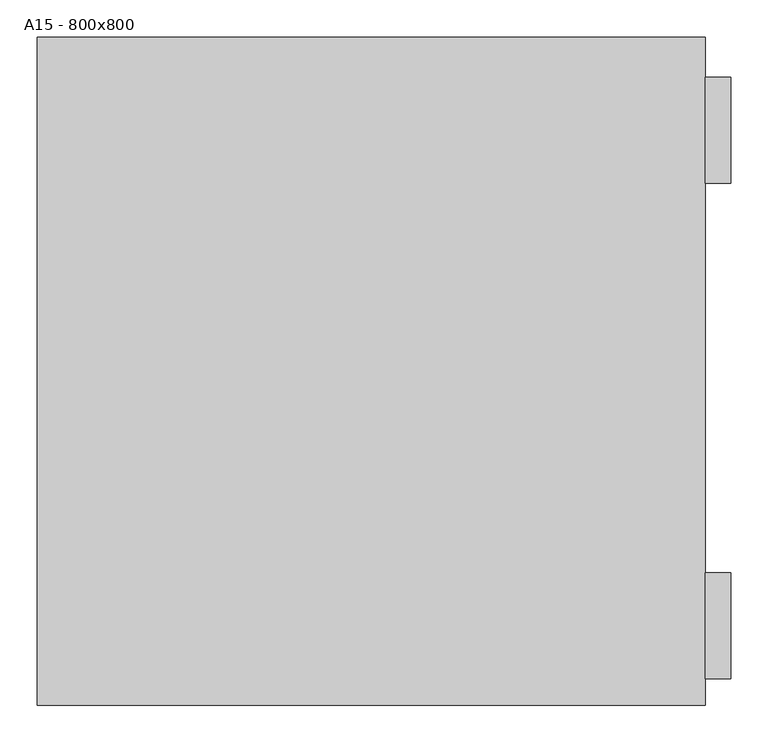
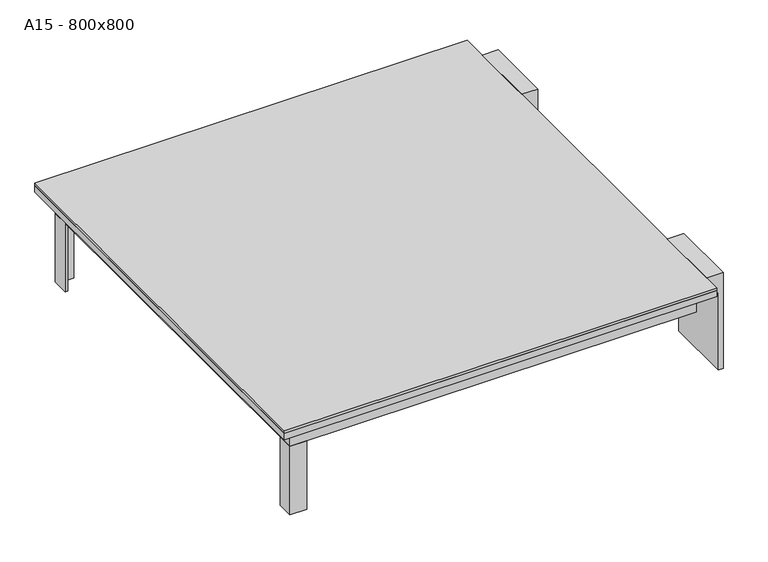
"""IFC4 building model written with IfcOpenShell, lengths in millimetres: proxy geometry, ME_ST_WPB_Access Cover SOLID ASSIST SS_ACO : A15 - 800x800."""

from ifc_helpers import new_model, si_unit, frame, origin, place, context, project, spatial, polyline, outline, extrude, faceted_brep, source, transform, mapped, element, save


def a15_800x800_d2df4928(model_context):
    return source(origin(), model_context, "Body", "SolidModel", [
        extrude(outline(polyline([(0.0, 482.0), (0.0, 448.0), (-40.0, 448.0), (-40.0, 472.0), (-210.175026, 472.0), (-210.175026, 482.0), (0.0, 482.0)])), frame((0.0, -412.0, 0.0), z_axis=(0.0, 1.0, 0.0), x_axis=(0.0, 0.0, 1.0)), (0.0, 0.0, 1.0), 142.0),
        extrude(outline(polyline([(0.0, 482.0), (0.0, 448.0), (-40.0, 448.0), (-40.0, 472.0), (-210.175026, 472.0), (-210.175026, 482.0), (0.0, 482.0)])), frame((0.0, 252.5, 0.0), z_axis=(0.0, 1.0, 0.0), x_axis=(0.0, 0.0, 1.0)), (0.0, 0.0, 1.0), 142.0),
        extrude(outline(polyline([(-421.0, 421.0), (-386.0, 421.0), (-386.0, 416.0), (-416.0, 416.0), (-416.0, 386.0), (-421.0, 386.0), (-421.0, 421.0)])), frame((0.0, 0.0, -210.0), z_axis=(0.0, 0.0, 1.0), x_axis=(1.0, 0.0, 0.0)), (0.0, 0.0, 1.0), 150.5),
        extrude(outline(polyline([(-421.0, -421.0), (-421.0, -386.0), (-416.0, -386.0), (-416.0, -416.0), (-386.0, -416.0), (-386.0, -421.0), (-421.0, -421.0)])), frame((0.0, 0.0, -210.0), z_axis=(0.0, 0.0, 1.0), x_axis=(1.0, 0.0, 0.0)), (0.0, 0.0, 1.0), 150.5),
        extrude(outline(polyline([(448.0, 448.0), (448.0, -448.0), (-448.0, -448.0), (-448.0, 448.0), (448.0, 448.0)])), frame((0.0, 0.0, -5.0), z_axis=(0.0, 0.0, 1.0), x_axis=(1.0, 0.0, 0.0)), (0.0, 0.0, 1.0), 5.0),
        faceted_brep([(448.0, 448.0, -19.0), (448.0, 448.0, -5.0), (448.0, -448.0, -5.0), (448.0, -448.0, -19.0), (400.0, 400.0, -57.5), (400.0, 400.0, -59.5), (400.0, -400.0, -59.5), (400.0, -400.0, -57.5), (446.0, 446.0, -5.0), (446.0, 446.0, -17.0), (446.0, -446.0, -17.0), (446.0, -446.0, -5.0), (-448.0, -448.0, -5.0), (-448.0, -448.0, -19.0), (-400.0, -400.0, -59.5), (-400.0, -400.0, -57.5), (-446.0, -446.0, -17.0), (-446.0, -446.0, -5.0), (-448.0, 448.0, -5.0), (-448.0, 448.0, -19.0), (-400.0, 400.0, -59.5), (-400.0, 400.0, -57.5), (-446.0, 446.0, -17.0), (-446.0, 446.0, -5.0), (421.0, -421.0, -59.5), (-421.0, -421.0, -59.5), (-421.0, 421.0, -59.5), (421.0, 421.0, -59.5), (419.0, 419.0, -57.5), (-419.0, 419.0, -57.5), (-419.0, -419.0, -57.5), (419.0, -419.0, -57.5), (421.0, 421.0, -19.0), (421.0, -421.0, -19.0), (419.0, 419.0, -17.0), (419.0, -419.0, -17.0), (-421.0, -421.0, -19.0), (-419.0, -419.0, -17.0), (-421.0, 421.0, -19.0), (-419.0, 419.0, -17.0)], [[[0, 1, 2, 3]], [[4, 5, 6, 7]], [[8, 9, 10, 11]], [[3, 2, 12, 13]], [[7, 6, 14, 15]], [[11, 10, 16, 17]], [[13, 12, 18, 19]], [[15, 14, 20, 21]], [[17, 16, 22, 23]], [[19, 18, 1, 0]], [[24, 25, 26, 27], [5, 20, 14, 6]], [[21, 20, 5, 4]], [[28, 29, 30, 31], [7, 15, 21, 4]], [[23, 22, 9, 8]], [[27, 32, 33, 24]], [[34, 28, 31, 35]], [[24, 33, 36, 25]], [[35, 31, 30, 37]], [[25, 36, 38, 26]], [[37, 30, 29, 39]], [[3, 13, 19, 0], [32, 38, 36, 33]], [[26, 38, 32, 27]], [[39, 29, 28, 34]], [[9, 22, 16, 10], [35, 37, 39, 34]], [[1, 18, 12, 2], [11, 17, 23, 8]]]),
    ])


if __name__ == "__main__":
    model = new_model("IFC4")
    model_context = context("Model", 3, world=origin())
    ifc_project = project(units=[si_unit("LENGTHUNIT", "METRE", prefix="MILLI")], contexts=[model_context])
    site = spatial("IfcSite", under=ifc_project)
    building = spatial("IfcBuilding", under=site)
    placement = place(None, origin())
    a15_800x800_shape = a15_800x800_d2df4928(model_context)
    element("IfcBuildingElementProxy", 1, Name="ME_ST_WPB_Access Cover SOLID ASSIST SS_ACO : A15 - 800x800", ObjectType="ME_ST_WPB_Access Cover SOLID ASSIST SS_ACO : A15 - 800x800", at=placement, inside=building, context=model_context, shape_type="MappedRepresentation", body=[
        mapped(a15_800x800_shape, transform((0.0, 0.0, 0.0), x_axis=(1.0, 0.0, 0.0), y_axis=(0.0, 1.0, 0.0), z_axis=(0.0, 0.0, 1.0))),
    ])
    save(model, "model.ifc")
